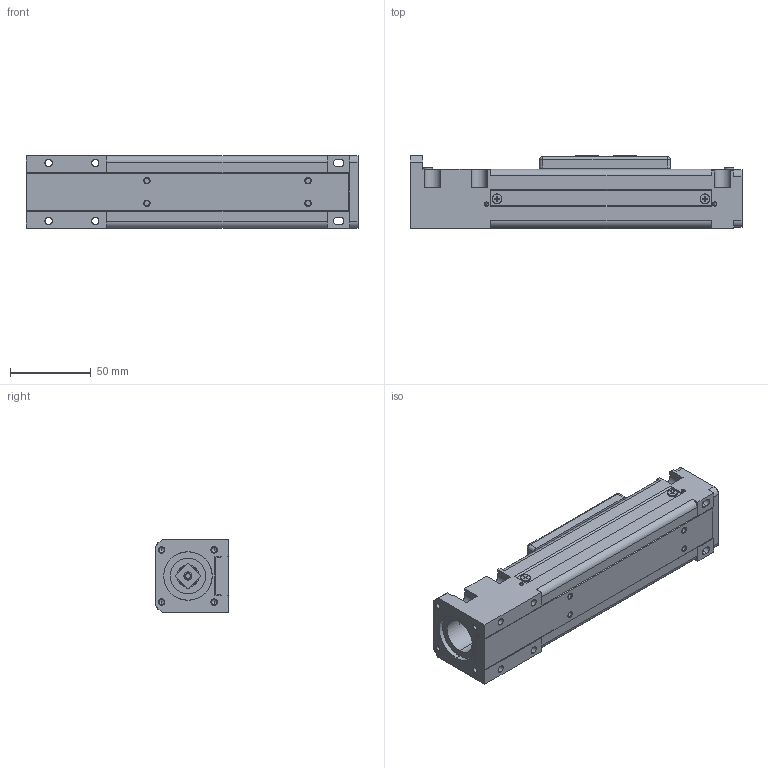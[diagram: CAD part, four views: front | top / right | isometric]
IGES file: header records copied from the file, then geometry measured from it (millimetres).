
Start section: SolidWorks IGES file using analytic representation for surfaces
Global section: file name: C:\Users\render\Documents\CAD Files\Integrated-Actuators\RL-Sreies\RL-45T\RL-45T-50.IGS; native system: SolidWorks 2009; preprocessor: SolidWorks 2009; author: render; date: 100614.132814; units: millimetre
Bounding box: 206 x 45 x 45 mm (x, y, z)
Surface area: 93385.6 mm2 (no closed solid volume)
Topology: 0 solids, 0 shells, 625 faces, 6252 edges, 6232 vertices
Faces by surface type: bspline 418, revolution 207
